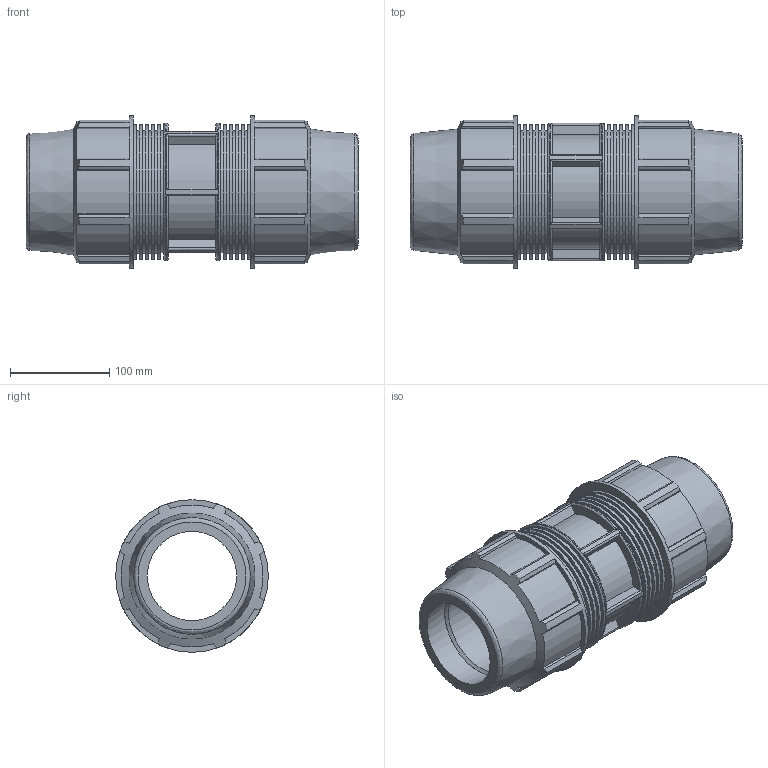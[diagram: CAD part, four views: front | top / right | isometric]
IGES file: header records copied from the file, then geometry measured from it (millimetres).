
Global section: file name: 0761060900A.ipt; native system: Autodesk Inventor 2015; preprocessor: unknown; author: KIM; date: 20170608.042730; units: millimetre
Bounding box: 335 x 154 x 154 mm (x, y, z)
Volume: 2440475.4 mm3; surface area: 331278.9 mm2
Topology: 1 solids, 1 shells, 212 faces, 551 edges, 370 vertices
Faces by surface type: plane 130, cylinder 57, revolution 21, cone 4
Full cylindrical faces by diameter (mm): 123.2 x10, 135.828 x10, 138.6 x1, 154 x2
